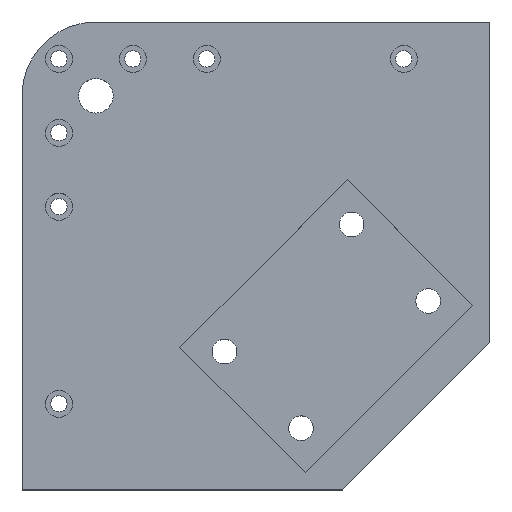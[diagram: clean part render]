
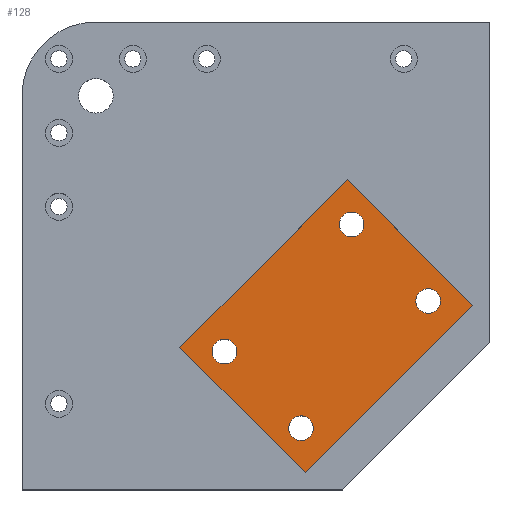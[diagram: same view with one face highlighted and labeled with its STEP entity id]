
A CAD part, top view. The second image highlights one B-rep face of the part: STEP entity #128.
In plain terms, the highlighted planar face has unit normal (0, 0, 1).
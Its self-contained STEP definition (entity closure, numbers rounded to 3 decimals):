
#1 = EDGE_CURVE ( 'NONE', #1735, #518, #1531, .T. ) ;
#14 = CARTESIAN_POINT ( 'NONE',  ( 69.922, -18.303, 3. ) ) ;
#50 = EDGE_CURVE ( 'NONE', #694, #1735, #1692, .T. ) ;
#59 = CIRCLE ( 'NONE', #1368, 5. ) ;
#96 = DIRECTION ( 'NONE',  ( 0., 0., 1. ) ) ;
#126 = DIRECTION ( 'NONE',  ( -0.707, -0.707, 0. ) ) ;
#128 = ADVANCED_FACE ( 'NONE', ( #813, #222, #975, #1851, #546 ), #404, .T. ) ;
#158 = CARTESIAN_POINT ( 'NONE',  ( 18.303, -69.922, 3. ) ) ;
#163 = ORIENTED_EDGE ( 'NONE', *, *, #50, .T. ) ;
#193 = VERTEX_POINT ( 'NONE', #1608 ) ;
#202 = DIRECTION ( 'NONE',  ( 1., 0., 0. ) ) ;
#211 = ORIENTED_EDGE ( 'NONE', *, *, #221, .T. ) ;
#221 = EDGE_CURVE ( 'NONE', #1543, #694, #1571, .T. ) ;
#222 = FACE_BOUND ( 'NONE', #605, .T. ) ;
#229 = CARTESIAN_POINT ( 'NONE',  ( 88.024, -20., 3. ) ) ;
#230 = DIRECTION ( 'NONE',  ( 0., 0., 1. ) ) ;
#240 = CARTESIAN_POINT ( 'NONE',  ( -7.81, -38.809, 3. ) ) ;
#243 = AXIS2_PLACEMENT_3D ( 'NONE', #1115, #263, #824 ) ;
#263 = DIRECTION ( 'NONE',  ( 0., 0., 1. ) ) ;
#303 = EDGE_CURVE ( 'NONE', #1321, #193, #1694, .T. ) ;
#314 = EDGE_CURVE ( 'NONE', #562, #896, #542, .T. ) ;
#317 = CARTESIAN_POINT ( 'NONE',  ( -12.81, -38.809, 3. ) ) ;
#327 = EDGE_LOOP ( 'NONE', ( #1813, #1459 ) ) ;
#368 = CARTESIAN_POINT ( 'NONE',  ( 13.303, -69.922, 3. ) ) ;
#399 = ORIENTED_EDGE ( 'NONE', *, *, #892, .F. ) ;
#404 = PLANE ( 'NONE',  #1277 ) ;
#418 = DIRECTION ( 'NONE',  ( 1., 0., 0. ) ) ;
#427 = ORIENTED_EDGE ( 'NONE', *, *, #1, .T. ) ;
#447 = AXIS2_PLACEMENT_3D ( 'NONE', #317, #610, #1781 ) ;
#454 = DIRECTION ( 'NONE',  ( 0., 0., 1. ) ) ;
#478 = VERTEX_POINT ( 'NONE', #1397 ) ;
#499 = ORIENTED_EDGE ( 'NONE', *, *, #816, .T. ) ;
#509 = DIRECTION ( 'NONE',  ( 1., 0., 0. ) ) ;
#518 = VERTEX_POINT ( 'NONE', #229 ) ;
#542 = CIRCLE ( 'NONE', #568, 5. ) ;
#546 = FACE_OUTER_BOUND ( 'NONE', #923, .T. ) ;
#562 = VERTEX_POINT ( 'NONE', #1137 ) ;
#568 = AXIS2_PLACEMENT_3D ( 'NONE', #14, #1226, #202 ) ;
#585 = DIRECTION ( 'NONE',  ( 1., 0., 0. ) ) ;
#605 = EDGE_LOOP ( 'NONE', ( #1581, #685 ) ) ;
#610 = DIRECTION ( 'NONE',  ( 0., 0., 1. ) ) ;
#671 = DIRECTION ( 'NONE',  ( 1., 0., 0. ) ) ;
#685 = ORIENTED_EDGE ( 'NONE', *, *, #1864, .F. ) ;
#694 = VERTEX_POINT ( 'NONE', #1798 ) ;
#770 = EDGE_LOOP ( 'NONE', ( #399, #847 ) ) ;
#796 = DIRECTION ( 'NONE',  ( 1., 0., 0. ) ) ;
#802 = CARTESIAN_POINT ( 'NONE',  ( -30.912, -37.112, 3. ) ) ;
#813 = FACE_BOUND ( 'NONE', #1244, .T. ) ;
#816 = EDGE_CURVE ( 'NONE', #518, #1543, #1837, .T. ) ;
#824 = DIRECTION ( 'NONE',  ( 1., 0., 0. ) ) ;
#847 = ORIENTED_EDGE ( 'NONE', *, *, #303, .F. ) ;
#849 = AXIS2_PLACEMENT_3D ( 'NONE', #1395, #96, #671 ) ;
#892 = EDGE_CURVE ( 'NONE', #193, #1321, #1858, .T. ) ;
#896 = VERTEX_POINT ( 'NONE', #929 ) ;
#923 = EDGE_LOOP ( 'NONE', ( #499, #211, #163, #427 ) ) ;
#929 = CARTESIAN_POINT ( 'NONE',  ( 74.922, -18.303, 3. ) ) ;
#947 = CARTESIAN_POINT ( 'NONE',  ( 38.809, 12.81, 3. ) ) ;
#955 = ORIENTED_EDGE ( 'NONE', *, *, #1239, .F. ) ;
#956 = DIRECTION ( 'NONE',  ( 0., 0., 1. ) ) ;
#965 = DIRECTION ( 'NONE',  ( 0.707, -0.707, 0. ) ) ;
#970 = VECTOR ( 'NONE', #126, 1000. ) ;
#971 = CARTESIAN_POINT ( 'NONE',  ( 88.024, -20., 3. ) ) ;
#975 = FACE_BOUND ( 'NONE', #770, .T. ) ;
#1059 = CIRCLE ( 'NONE', #243, 5. ) ;
#1089 = AXIS2_PLACEMENT_3D ( 'NONE', #1849, #230, #1110 ) ;
#1110 = DIRECTION ( 'NONE',  ( 1., 0., 0. ) ) ;
#1114 = DIRECTION ( 'NONE',  ( 0., 0., 1. ) ) ;
#1115 = CARTESIAN_POINT ( 'NONE',  ( 18.303, -69.922, 3. ) ) ;
#1131 = EDGE_CURVE ( 'NONE', #1870, #1833, #59, .T. ) ;
#1137 = CARTESIAN_POINT ( 'NONE',  ( 64.922, -18.303, 3. ) ) ;
#1138 = CARTESIAN_POINT ( 'NONE',  ( 37.112, 30.912, 3. ) ) ;
#1226 = DIRECTION ( 'NONE',  ( 0., 0., 1. ) ) ;
#1229 = CARTESIAN_POINT ( 'NONE',  ( 20., -88.024, 3. ) ) ;
#1239 = EDGE_CURVE ( 'NONE', #478, #1338, #1394, .T. ) ;
#1244 = EDGE_LOOP ( 'NONE', ( #1384, #955 ) ) ;
#1265 = CARTESIAN_POINT ( 'NONE',  ( 69.922, -18.303, 3. ) ) ;
#1277 = AXIS2_PLACEMENT_3D ( 'NONE', #1711, #1721, #418 ) ;
#1300 = AXIS2_PLACEMENT_3D ( 'NONE', #947, #1114, #796 ) ;
#1321 = VERTEX_POINT ( 'NONE', #240 ) ;
#1338 = VERTEX_POINT ( 'NONE', #1540 ) ;
#1368 = AXIS2_PLACEMENT_3D ( 'NONE', #158, #454, #585 ) ;
#1378 = DIRECTION ( 'NONE',  ( -0.707, 0.707, 0. ) ) ;
#1383 = CARTESIAN_POINT ( 'NONE',  ( 20., -88.024, 3. ) ) ;
#1384 = ORIENTED_EDGE ( 'NONE', *, *, #1854, .F. ) ;
#1394 = CIRCLE ( 'NONE', #1089, 5. ) ;
#1395 = CARTESIAN_POINT ( 'NONE',  ( -12.81, -38.809, 3. ) ) ;
#1397 = CARTESIAN_POINT ( 'NONE',  ( 43.809, 12.81, 3. ) ) ;
#1405 = EDGE_CURVE ( 'NONE', #1833, #1870, #1059, .T. ) ;
#1459 = ORIENTED_EDGE ( 'NONE', *, *, #1131, .F. ) ;
#1531 = LINE ( 'NONE', #1383, #1821 ) ;
#1540 = CARTESIAN_POINT ( 'NONE',  ( 33.809, 12.81, 3. ) ) ;
#1543 = VERTEX_POINT ( 'NONE', #1583 ) ;
#1565 = VECTOR ( 'NONE', #1378, 1000. ) ;
#1571 = LINE ( 'NONE', #1138, #970 ) ;
#1581 = ORIENTED_EDGE ( 'NONE', *, *, #314, .F. ) ;
#1583 = CARTESIAN_POINT ( 'NONE',  ( 37.112, 30.912, 3. ) ) ;
#1608 = CARTESIAN_POINT ( 'NONE',  ( -17.81, -38.809, 3. ) ) ;
#1670 = DIRECTION ( 'NONE',  ( 0.707, 0.707, 0. ) ) ;
#1687 = CIRCLE ( 'NONE', #1720, 5. ) ;
#1692 = LINE ( 'NONE', #802, #1759 ) ;
#1694 = CIRCLE ( 'NONE', #447, 5. ) ;
#1705 = CARTESIAN_POINT ( 'NONE',  ( 23.303, -69.922, 3. ) ) ;
#1711 = CARTESIAN_POINT ( 'NONE',  ( 0., 0., 3. ) ) ;
#1720 = AXIS2_PLACEMENT_3D ( 'NONE', #1265, #956, #509 ) ;
#1721 = DIRECTION ( 'NONE',  ( 0., 0., 1. ) ) ;
#1735 = VERTEX_POINT ( 'NONE', #1229 ) ;
#1759 = VECTOR ( 'NONE', #965, 1000. ) ;
#1781 = DIRECTION ( 'NONE',  ( 1., 0., 0. ) ) ;
#1798 = CARTESIAN_POINT ( 'NONE',  ( -30.912, -37.112, 3. ) ) ;
#1813 = ORIENTED_EDGE ( 'NONE', *, *, #1405, .F. ) ;
#1816 = CIRCLE ( 'NONE', #1300, 5. ) ;
#1821 = VECTOR ( 'NONE', #1670, 1000. ) ;
#1833 = VERTEX_POINT ( 'NONE', #368 ) ;
#1837 = LINE ( 'NONE', #971, #1565 ) ;
#1849 = CARTESIAN_POINT ( 'NONE',  ( 38.809, 12.81, 3. ) ) ;
#1851 = FACE_BOUND ( 'NONE', #327, .T. ) ;
#1854 = EDGE_CURVE ( 'NONE', #1338, #478, #1816, .T. ) ;
#1858 = CIRCLE ( 'NONE', #849, 5. ) ;
#1864 = EDGE_CURVE ( 'NONE', #896, #562, #1687, .T. ) ;
#1870 = VERTEX_POINT ( 'NONE', #1705 ) ;
